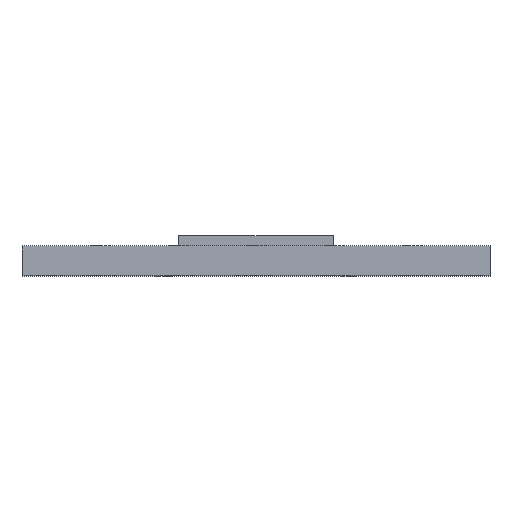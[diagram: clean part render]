
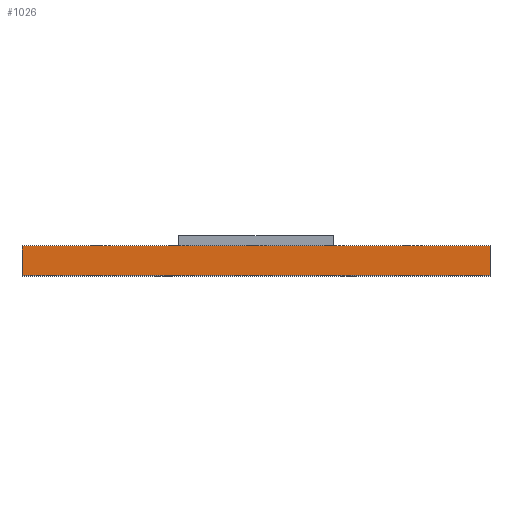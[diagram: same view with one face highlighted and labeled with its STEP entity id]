
A CAD part, top view. The second image highlights one B-rep face of the part: STEP entity #1026.
In plain terms, the highlighted planar face has unit normal (0, 0, 1).
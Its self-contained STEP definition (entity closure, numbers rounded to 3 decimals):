
#161=FACE_OUTER_BOUND('',#234,.T.);
#234=EDGE_LOOP('',(#951,#952,#953,#954));
#301=LINE('',#1594,#388);
#304=LINE('',#1644,#391);
#306=LINE('',#1707,#393);
#322=LINE('',#1739,#409);
#388=VECTOR('',#1279,10.);
#391=VECTOR('',#1328,10.);
#393=VECTOR('',#1392,10.);
#409=VECTOR('',#1440,10.);
#462=VERTEX_POINT('',#1591);
#463=VERTEX_POINT('',#1593);
#486=VERTEX_POINT('',#1641);
#487=VERTEX_POINT('',#1643);
#591=EDGE_CURVE('',#463,#462,#301,.T.);
#616=EDGE_CURVE('',#486,#487,#304,.T.);
#648=EDGE_CURVE('',#486,#463,#306,.T.);
#664=EDGE_CURVE('',#462,#487,#322,.T.);
#951=ORIENTED_EDGE('',*,*,#648,.T.);
#952=ORIENTED_EDGE('',*,*,#591,.T.);
#953=ORIENTED_EDGE('',*,*,#664,.T.);
#954=ORIENTED_EDGE('',*,*,#616,.F.);
#984=PLANE('',#1148);
#1026=ADVANCED_FACE('',(#161),#984,.F.);
#1148=AXIS2_PLACEMENT_3D('',#1738,#1438,#1439);
#1279=DIRECTION('',(-1.,0.,0.));
#1328=DIRECTION('',(-1.,0.,0.));
#1392=DIRECTION('',(0.,1.,0.));
#1438=DIRECTION('center_axis',(0.,0.,-1.));
#1439=DIRECTION('ref_axis',(-1.,0.,0.));
#1440=DIRECTION('',(0.,-1.,0.));
#1591=CARTESIAN_POINT('',(-24.,1.524,40.));
#1593=CARTESIAN_POINT('',(24.,1.524,40.));
#1594=CARTESIAN_POINT('',(0.,1.524,40.));
#1641=CARTESIAN_POINT('',(24.,-1.476,40.));
#1643=CARTESIAN_POINT('',(-24.,-1.476,40.));
#1644=CARTESIAN_POINT('',(24.,-1.476,40.));
#1707=CARTESIAN_POINT('',(24.,0.,40.));
#1738=CARTESIAN_POINT('Origin',(0.,0.,40.));
#1739=CARTESIAN_POINT('',(-24.,0.,40.));
